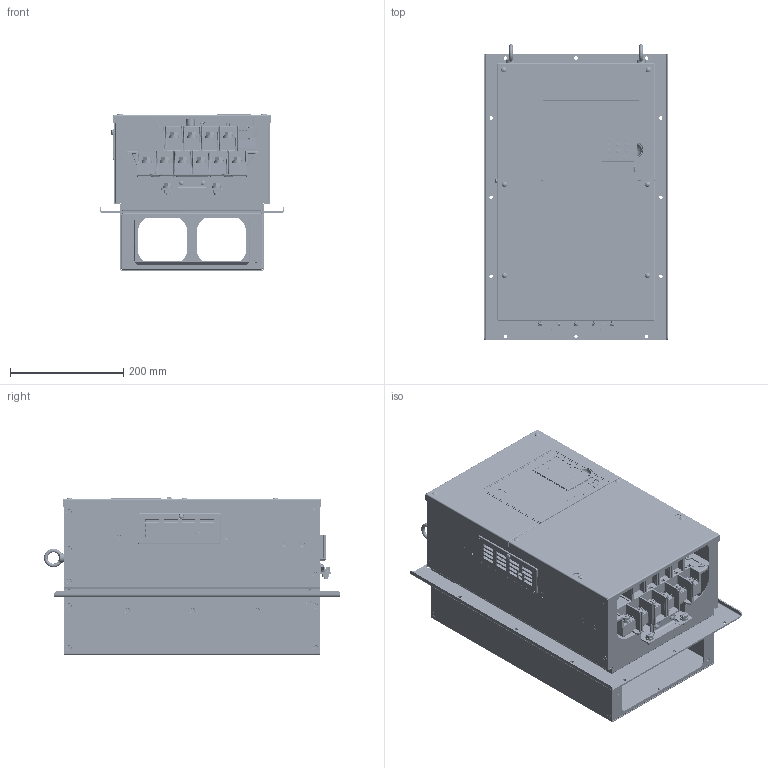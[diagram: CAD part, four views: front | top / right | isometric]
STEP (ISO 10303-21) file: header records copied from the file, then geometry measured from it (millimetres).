
FILE_DESCRIPTION((''),'2;1');
FILE_NAME('A1000_IP54R_FRAME_I_ASM','2011-12-23T',('jc'),('YASKAWA ELECTRIC CORCORATION'),'PRO/ENGINEER BY PARAMETRIC TECHNOLOGY CORPORATION, 2008490','PRO/ENGINEER BY PARAMETRIC TECHNOLOGY CORPORATION, 2008490','');
FILE_SCHEMA(('CONFIG_CONTROL_DESIGN'));
Length unit declared in the file: millimetre
Products named in the file (137): A1000_IP54R_FRAME_I1; A1000_IP54R_FRAME_I3; A1000_IP54R_FRAME_I5; A1000_IP54R_FRAME_I6; A1000_IP54R_FRAME_I4_ASM; A1000_IP54R_FRAME_I8; A1000_IP54R_FRAME_I7_ASM; A1000_IP54R_FRAME_I9; A1000_IP54R_FRAME_I10; A1000_IP54R_FRAME_I10_AF1; A1000_IP54R_FRAME_I10_AF0; A1000_IP54R_FRAME_I10_AF3; A1000_IP54R_FRAME_I10_AF2; A1000_IP54R_FRAME_I10_AF5; A1000_IP54R_FRAME_I10_AF4; A1000_IP54R_FRAME_I10_AF7; A1000_IP54R_FRAME_I10_AF6; A1000_IP54R_FRAME_I10_AF9; A1000_IP54R_FRAME_I10_AF8; A1000_IP54R_FRAME_I2_ASM; A1000_IP54R_FRAME_I13; A1000_IP54R_FRAME_I14; A1000_IP54R_FRAME_I12_ASM; A1000_IP54R_FRAME_I15; A1000_IP54R_FRAME_I11_ASM; A1000_IP54R_FRAME_I18; A1000_IP54R_FRAME_I19; A1000_IP54R_FRAME_I20; A1000_IP54R_FRAME_I21; A1000_IP54R_FRAME_I17_ASM; A1000_IP54R_FRAME_I22; A1000_IP54R_FRAME_I23; A1000_IP54R_FRAME_I16_ASM; A1000_IP54R_FRAME_I25; A1000_IP54R_FRAME_I26; A1000_IP54R_FRAME_I28; A1000_IP54R_FRAME_I27_ASM; A1000_IP54R_FRAME_I29; A1000_IP54R_FRAME_I30; A1000_IP54R_FRAME_I28_ASM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
Assembly tree (217 placements, depth 6):
  A1000_IP54R_FRAME_I_ASM
    A1000_IP54R_FRAME_I1
    A1000_IP54R_FRAME_I2_ASM
      A1000_IP54R_FRAME_I3
      A1000_IP54R_FRAME_I4_ASM
        A1000_IP54R_FRAME_I5
        A1000_IP54R_FRAME_I6  x3
      A1000_IP54R_FRAME_I7_ASM
        A1000_IP54R_FRAME_I8
        A1000_IP54R_FRAME_I6  x4
      A1000_IP54R_FRAME_I9
      A1000_IP54R_FRAME_I10  x15
      A1000_IP54R_FRAME_I10_AF1
      A1000_IP54R_FRAME_I10_AF0
      A1000_IP54R_FRAME_I10_AF3
      A1000_IP54R_FRAME_I10_AF2
      A1000_IP54R_FRAME_I10_AF5
      A1000_IP54R_FRAME_I10_AF4
      A1000_IP54R_FRAME_I10_AF7
      A1000_IP54R_FRAME_I10_AF6
      A1000_IP54R_FRAME_I10_AF9
      A1000_IP54R_FRAME_I10_AF8
    A1000_IP54R_FRAME_I11_ASM
      A1000_IP54R_FRAME_I12_ASM
        A1000_IP54R_FRAME_I13
        A1000_IP54R_FRAME_I14  x2
      A1000_IP54R_FRAME_I15
    A1000_IP54R_FRAME_I16_ASM
      A1000_IP54R_FRAME_I17_ASM
        A1000_IP54R_FRAME_I18
        A1000_IP54R_FRAME_I19
        A1000_IP54R_FRAME_I20
        A1000_IP54R_FRAME_I21  x4
      A1000_IP54R_FRAME_I22
      A1000_IP54R_FRAME_I23
    A1000_IP54R_FRAME_I24_ASM
      A1000_IP54R_FRAME_I25
      A1000_IP54R_FRAME_I26
      A1000_IP54R_FRAME_I27_ASM
        A1000_IP54R_FRAME_I28
      A1000_IP54R_FRAME_I28_ASM
        A1000_IP54R_FRAME_I29
        A1000_IP54R_FRAME_I30  x2
      A1000_IP54R_FRAME_I31  x4
      A1000_IP54R_FRAME_I32
      A1000_IP54R_FRAME_I33
      A1000_IP54R_FRAME_I34  x8
      A1000_IP54R_FRAME_I34_AF1
      A1000_IP54R_FRAME_I34_AF0
      A1000_IP54R_FRAME_I34_AF3
      A1000_IP54R_FRAME_I34_AF2
      A1000_IP54R_FRAME_I34_AF5
      A1000_IP54R_FRAME_I34_AF4
      A1000_IP54R_FRAME_I34_AF7
      A1000_IP54R_FRAME_I34_AF6
      A1000_IP54R_FRAME_I34_AF9
      A1000_IP54R_FRAME_I34_AF8
      A1000_IP54R_FRAME_I34_AF11
      A1000_IP54R_FRAME_I34_AF10
      A1000_IP54R_FRAME_I34_AF13
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Bounding box: 325 x 523.2 x 277.94 mm (x, y, z)
Volume: 2790449.8 mm3; surface area: 2222216.7 mm2
Topology: 246 solids, 248 shells, 13129 faces, 33005 edges, 20658 vertices
Faces by surface type: plane 7958, cylinder 3264, bspline 747, cone 700, sphere 253, torus 200, extrusion 7
Entity records: 394625 total; most frequent: CARTESIAN_POINT 111573, ORIENTED_EDGE 59334, DIRECTION 56042, EDGE_CURVE 29667, VECTOR 21752, LINE 21745, VERTEX_POINT 18674, AXIS2_PLACEMENT_3D 17145
